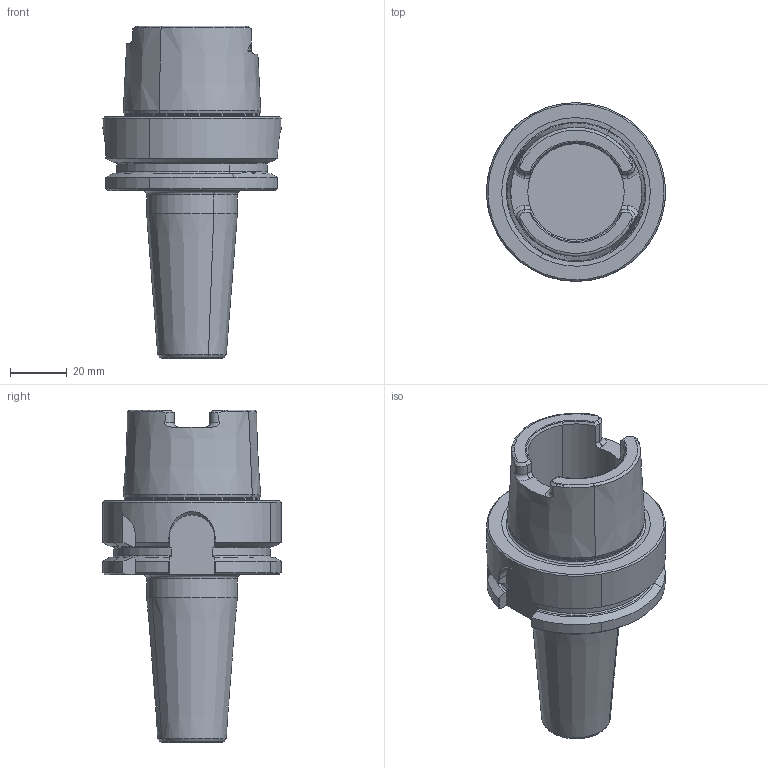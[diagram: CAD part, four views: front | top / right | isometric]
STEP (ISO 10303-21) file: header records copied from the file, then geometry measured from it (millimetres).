
FILE_DESCRIPTION(('CATIA V5 STEP','CAx-IF Rec.Pracs.--- Model Styling and Organization---1.2---2011-12-15'),'2;1');
FILE_NAME('\\nas01\drv1\utils\eitdev\rte\eit\transmagicconvert\db\out\4503900 L.stp','2014-03-30T06:30:29+00:00',('none'),('none'),'CATIA Version 5 Release 21 SP 5 (IN-10)','CATIA V5 STEP AP214','none');
FILE_SCHEMA(('AUTOMOTIVE_DESIGN { 1 0 10303 214 1 1 1 1 }'));
Length unit declared in the file: millimetre
Products named in the file (1): 60796144_0 Holder-Tool HSK A 63 SRKIN 10X 85
Bounding box: 63 x 63 x 117 mm (x, y, z)
Volume: 128644.3 mm3; surface area: 25802.1 mm2
Topology: 1 solids, 1 shells, 142 faces, 365 edges, 228 vertices
Faces by surface type: plane 45, cone 37, cylinder 32, torus 28
Entity records: 4393 total; most frequent: CARTESIAN_POINT 1349, ORIENTED_EDGE 730, DIRECTION 448, EDGE_CURVE 365, AXIS2_PLACEMENT_3D 238, VERTEX_POINT 228, CIRCLE 153, EDGE_LOOP 145
